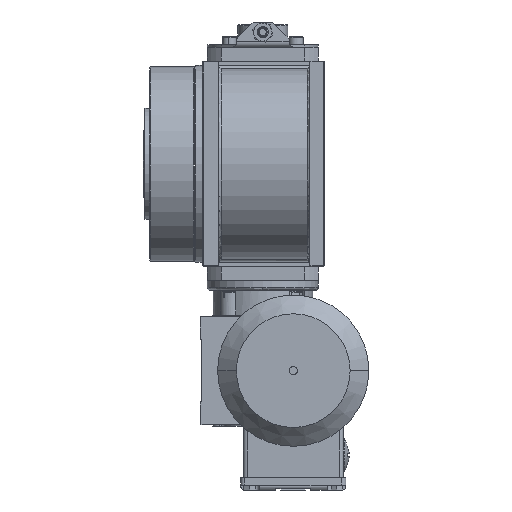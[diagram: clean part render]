
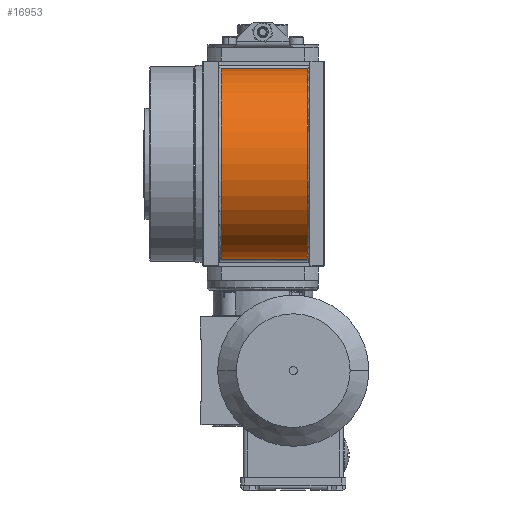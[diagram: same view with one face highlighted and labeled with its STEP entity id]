
A CAD part, left-side view. The second image highlights one B-rep face of the part: STEP entity #16953.
In plain terms, the highlighted cylindrical face has radius 69 mm (diameter 138 mm), a partial arc.
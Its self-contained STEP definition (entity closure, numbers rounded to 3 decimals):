
#2363 = DIRECTION ( 'NONE',  ( 0., -1., 0. ) ) ;
#2781 = FACE_OUTER_BOUND ( 'NONE', #69666, .T. ) ;
#3436 = VECTOR ( 'NONE', #29732, 1000. ) ;
#4207 = CARTESIAN_POINT ( 'NONE',  ( -3.887, 2., 68.89 ) ) ;
#6854 = CARTESIAN_POINT ( 'NONE',  ( -3.887, 64., -68.89 ) ) ;
#10974 = LINE ( 'NONE', #64505, #3436 ) ;
#16196 = DIRECTION ( 'NONE',  ( 0., 0., 1. ) ) ;
#16604 = DIRECTION ( 'NONE',  ( 0., 0., 1. ) ) ;
#16953 = ADVANCED_FACE ( 'NONE', ( #2781 ), #39810, .T. ) ;
#19645 = EDGE_CURVE ( 'NONE', #68413, #34276, #10974, .T. ) ;
#21829 = ORIENTED_EDGE ( 'NONE', *, *, #41987, .T. ) ;
#22810 = CIRCLE ( 'NONE', #30159, 69. ) ;
#25772 = CARTESIAN_POINT ( 'NONE',  ( -3.887, 66., -68.89 ) ) ;
#27857 = CARTESIAN_POINT ( 'NONE',  ( 0., 66., 0. ) ) ;
#28264 = DIRECTION ( 'NONE',  ( 0., 0., -1. ) ) ;
#29732 = DIRECTION ( 'NONE',  ( 0., 1., 0. ) ) ;
#30159 = AXIS2_PLACEMENT_3D ( 'NONE', #33479, #57020, #16196 ) ;
#31944 = LINE ( 'NONE', #25772, #56044 ) ;
#33418 = AXIS2_PLACEMENT_3D ( 'NONE', #27857, #57946, #28264 ) ;
#33479 = CARTESIAN_POINT ( 'NONE',  ( 0., 64., 0. ) ) ;
#34276 = VERTEX_POINT ( 'NONE', #39283 ) ;
#34763 = VERTEX_POINT ( 'NONE', #6854 ) ;
#35452 = DIRECTION ( 'NONE',  ( 0., 1., 0. ) ) ;
#36029 = ORIENTED_EDGE ( 'NONE', *, *, #19645, .T. ) ;
#39283 = CARTESIAN_POINT ( 'NONE',  ( -3.887, 64., 68.89 ) ) ;
#39810 = CYLINDRICAL_SURFACE ( 'NONE', #33418, 69. ) ;
#41987 = EDGE_CURVE ( 'NONE', #34763, #47241, #31944, .T. ) ;
#47241 = VERTEX_POINT ( 'NONE', #69315 ) ;
#48877 = EDGE_CURVE ( 'NONE', #34276, #34763, #22810, .T. ) ;
#56044 = VECTOR ( 'NONE', #2363, 1000. ) ;
#57020 = DIRECTION ( 'NONE',  ( 0., -1., 0. ) ) ;
#57239 = ORIENTED_EDGE ( 'NONE', *, *, #48877, .T. ) ;
#57946 = DIRECTION ( 'NONE',  ( 0., -1., 0. ) ) ;
#63353 = AXIS2_PLACEMENT_3D ( 'NONE', #70547, #35452, #16604 ) ;
#64505 = CARTESIAN_POINT ( 'NONE',  ( -3.887, 66., 68.89 ) ) ;
#64562 = CIRCLE ( 'NONE', #63353, 69. ) ;
#64838 = ORIENTED_EDGE ( 'NONE', *, *, #65964, .T. ) ;
#65964 = EDGE_CURVE ( 'NONE', #47241, #68413, #64562, .T. ) ;
#68413 = VERTEX_POINT ( 'NONE', #4207 ) ;
#69315 = CARTESIAN_POINT ( 'NONE',  ( -3.887, 2., -68.89 ) ) ;
#69666 = EDGE_LOOP ( 'NONE', ( #64838, #36029, #57239, #21829 ) ) ;
#70547 = CARTESIAN_POINT ( 'NONE',  ( 0., 2., 0. ) ) ;
